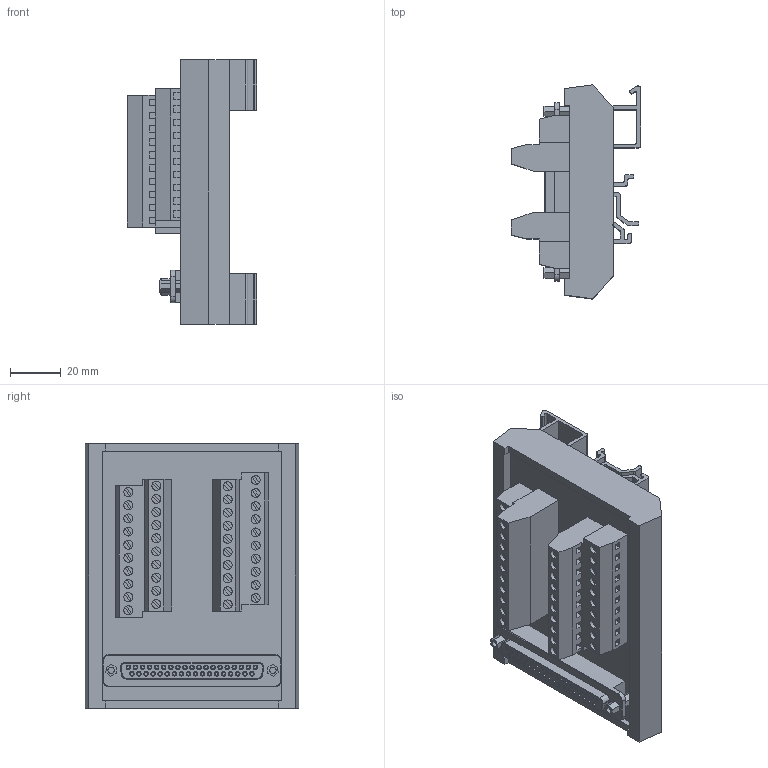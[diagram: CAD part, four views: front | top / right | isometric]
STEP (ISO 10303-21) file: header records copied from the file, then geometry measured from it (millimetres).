
FILE_DESCRIPTION (( 'STEP AP214' ), '1' );
FILE_NAME ('DIN-37.STEP', '2019-07-28T05:22:22', ( 'User' ), ( 'china' ), 'SwSTEP 2.0', 'SolidWorks 2018', '' );
FILE_SCHEMA (( 'AUTOMOTIVE_DESIGN' ));
Length unit declared in the file: millimetre
Products named in the file (4): DIN-37; 諉盄傷赽齬20190728; DB37RA_F-
Assembly tree (4 placements, depth 2):
  DIN-37
    DIN-37
    DB37RA_F-
    諉盄傷赽齬20190728  x2
Bounding box: 50.75 x 84 x 104 mm (x, y, z)
Volume: 182589.9 mm3; surface area: 51302.7 mm2
Topology: 11 solids, 11 shells, 949 faces, 2367 edges, 1546 vertices
Faces by surface type: plane 615, cylinder 247, bspline 80, torus 7
Entity records: 25667 total; most frequent: CARTESIAN_POINT 5017, DIRECTION 3481, ORIENTED_EDGE 3452, EDGE_CURVE 1726, AXIS2_PLACEMENT_3D 1208, VERTEX_POINT 1120, LINE 1065, VECTOR 1065
